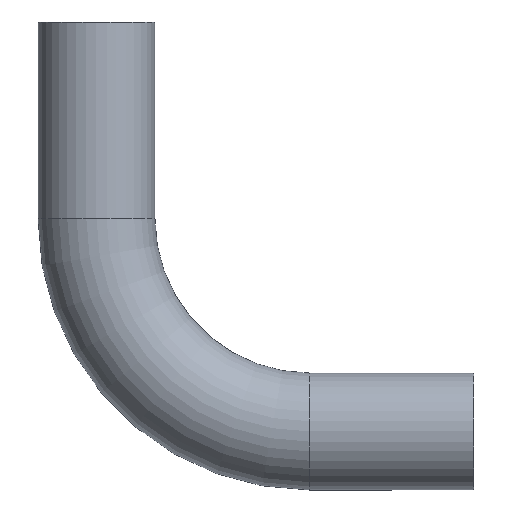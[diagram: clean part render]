
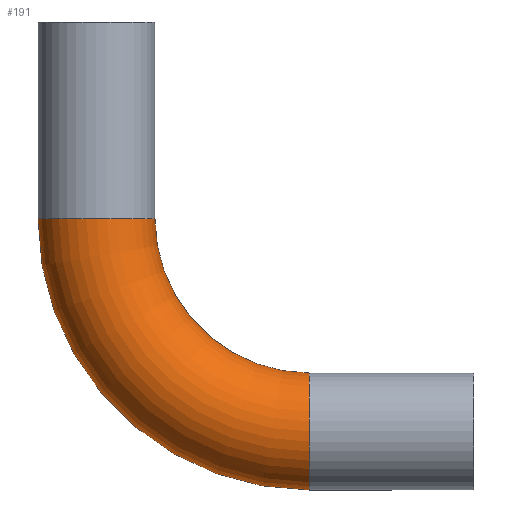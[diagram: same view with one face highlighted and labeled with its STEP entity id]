
A CAD part, top view. The second image highlights one B-rep face of the part: STEP entity #191.
In plain terms, the highlighted toroidal (fillet/blend) face has major radius 200 mm and minor radius 55 mm.
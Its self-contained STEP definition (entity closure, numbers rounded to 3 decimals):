
#3 = AXIS2_PLACEMENT_3D ( 'NONE', #370, #371, #372 ) ;
#11 = CIRCLE ( 'NONE', #3, 55. ) ;
#19 = AXIS2_PLACEMENT_3D ( 'NONE', #341, #342, #343 ) ;
#24 = CIRCLE ( 'NONE', #19, 255. ) ;
#25 = AXIS2_PLACEMENT_3D ( 'NONE', #330, #331, #332 ) ;
#26 = CIRCLE ( 'NONE', #25, 145. ) ;
#53 = CARTESIAN_POINT ( 'NONE',  ( -155., 55., 0. ) ) ;
#54 = CARTESIAN_POINT ( 'NONE',  ( -155., -55., 0. ) ) ;
#57 = CARTESIAN_POINT ( 'NONE',  ( -410., 200., 0. ) ) ;
#66 = CARTESIAN_POINT ( 'NONE',  ( -300., 200., 0. ) ) ;
#72 = CIRCLE ( 'NONE', #73, 55. ) ;
#73 = AXIS2_PLACEMENT_3D ( 'NONE', #320, #321, #322 ) ;
#82 = TOROIDAL_SURFACE ( 'NONE', #86, 200., 55. ) ;
#86 = AXIS2_PLACEMENT_3D ( 'NONE', #129, #133, #126 ) ;
#126 = DIRECTION ( 'NONE',  ( -1., 0., 0. ) ) ;
#129 = CARTESIAN_POINT ( 'NONE',  ( -155., 200., 0. ) ) ;
#130 = FACE_OUTER_BOUND ( 'NONE', #203, .T. ) ;
#133 = DIRECTION ( 'NONE',  ( 0., 0., -1. ) ) ;
#191 = ADVANCED_FACE ( 'NONE', ( #130 ), #82, .T. ) ;
#203 = EDGE_LOOP ( 'NONE', ( #274, #275, #276, #277 ) ) ;
#234 = VERTEX_POINT ( 'NONE', #66 ) ;
#245 = VERTEX_POINT ( 'NONE', #57 ) ;
#247 = VERTEX_POINT ( 'NONE', #54 ) ;
#248 = VERTEX_POINT ( 'NONE', #53 ) ;
#274 = ORIENTED_EDGE ( 'NONE', *, *, #431, .F. ) ;
#275 = ORIENTED_EDGE ( 'NONE', *, *, #441, .F. ) ;
#276 = ORIENTED_EDGE ( 'NONE', *, *, #428, .T. ) ;
#277 = ORIENTED_EDGE ( 'NONE', *, *, #424, .T. ) ;
#320 = CARTESIAN_POINT ( 'NONE',  ( -355., 200., 0. ) ) ;
#321 = DIRECTION ( 'NONE',  ( 0., -1., 0. ) ) ;
#322 = DIRECTION ( 'NONE',  ( 0., 0., -1. ) ) ;
#330 = CARTESIAN_POINT ( 'NONE',  ( -155., 200., 0. ) ) ;
#331 = DIRECTION ( 'NONE',  ( 0., 0., -1. ) ) ;
#332 = DIRECTION ( 'NONE',  ( -1., 0., 0. ) ) ;
#341 = CARTESIAN_POINT ( 'NONE',  ( -155., 200., 0. ) ) ;
#342 = DIRECTION ( 'NONE',  ( 0., 0., -1. ) ) ;
#343 = DIRECTION ( 'NONE',  ( -1., 0., 0. ) ) ;
#370 = CARTESIAN_POINT ( 'NONE',  ( -155., 0., 0. ) ) ;
#371 = DIRECTION ( 'NONE',  ( 1., 0., 0. ) ) ;
#372 = DIRECTION ( 'NONE',  ( 0., 0., -1. ) ) ;
#424 = EDGE_CURVE ( 'NONE', #234, #245, #72, .T. ) ;
#428 = EDGE_CURVE ( 'NONE', #248, #234, #26, .T. ) ;
#431 = EDGE_CURVE ( 'NONE', #247, #245, #24, .T. ) ;
#441 = EDGE_CURVE ( 'NONE', #248, #247, #11, .T. ) ;
